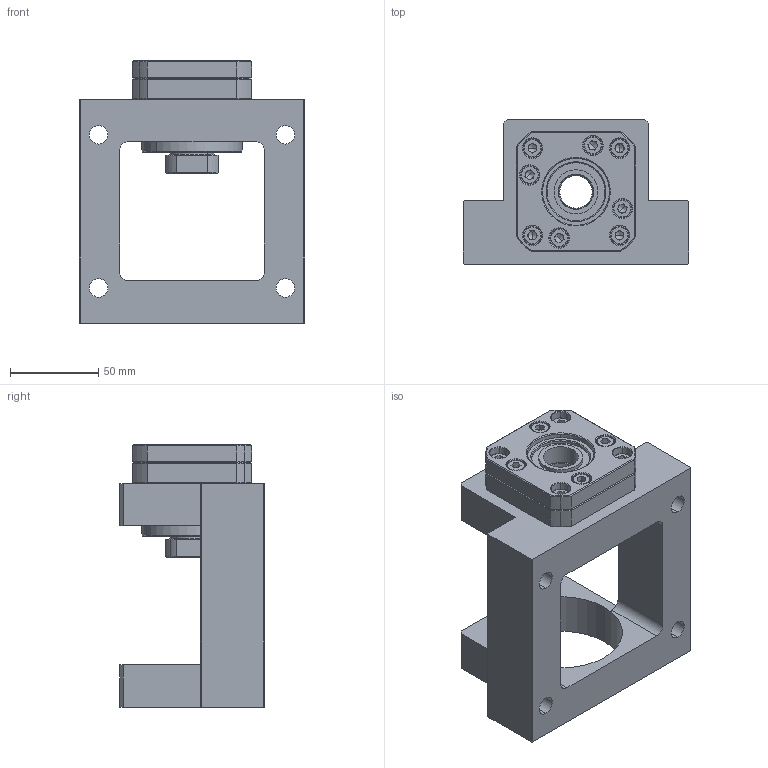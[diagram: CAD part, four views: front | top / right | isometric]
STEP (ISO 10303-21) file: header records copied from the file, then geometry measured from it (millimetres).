
FILE_DESCRIPTION (( 'STEP AP214' ), '1' );
FILE_NAME ('O-SBU-20.STEP', '2023-08-25T02:28:39', ( '决扁浅何厘' ), ( '' ), 'SwSTEP 2.0', 'SolidWorks 2023', '' );
FILE_SCHEMA (( 'AUTOMOTIVE_DESIGN' ));
Length unit declared in the file: millimetre
Products named in the file (4): socket head cap screw_ks_KS 1003 - M6 x 20 x 20-N; SJU-20 BODY; O-SBU-20; FK20-B
Assembly tree (6 placements, depth 2):
  O-SBU-20
    SJU-20 BODY
    FK20-B
    socket head cap screw_ks_KS 1003 - M6 x 20 x 20-N  x4
Bounding box: 128 x 82 x 149 mm (x, y, z)
Volume: 511337.6 mm3; surface area: 116801.7 mm2
Topology: 6 solids, 17 shells, 653 faces, 1505 edges, 889 vertices
Faces by surface type: plane 227, cylinder 187, cone 167, torus 72
Entity records: 16115 total; most frequent: DIRECTION 2994, CARTESIAN_POINT 2914, ORIENTED_EDGE 2546, EDGE_CURVE 1273, AXIS2_PLACEMENT_3D 1210, VERTEX_POINT 778, EDGE_LOOP 643, CIRCLE 641
